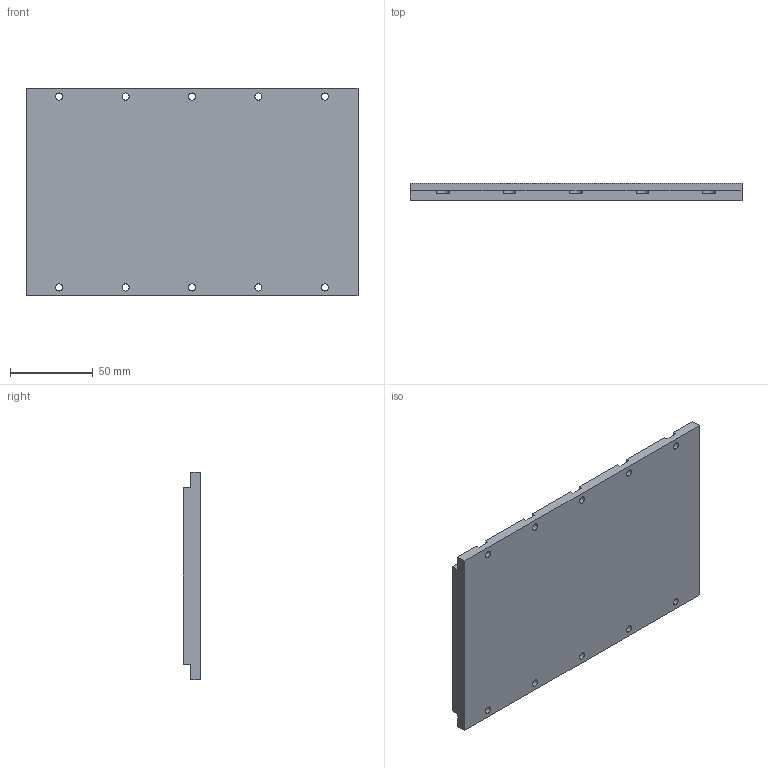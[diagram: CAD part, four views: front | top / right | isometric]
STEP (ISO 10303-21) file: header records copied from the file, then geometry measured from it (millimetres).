
FILE_DESCRIPTION (( 'STEP AP214' ), '1' );
FILE_NAME ('B-MJM100-L200.STEP', '2025-09-05T11:31:47', ( '' ), ( '' ), 'SwSTEP 2.0', 'SolidWorks 2016', '' );
FILE_SCHEMA (( 'AUTOMOTIVE_DESIGN' ));
Length unit declared in the file: millimetre
Products named in the file (1): B-MJM100-L200
Bounding box: 200 x 10.3 x 125 mm (x, y, z)
Volume: 239731.3 mm3; surface area: 57070.6 mm2
Topology: 1 solids, 1 shells, 75 faces, 219 edges, 146 vertices
Faces by surface type: plane 40, cylinder 35
Entity records: 2577 total; most frequent: CARTESIAN_POINT 441, DIRECTION 441, ORIENTED_EDGE 438, EDGE_CURVE 219, LINE 149, VECTOR 149, VERTEX_POINT 146, AXIS2_PLACEMENT_3D 146
